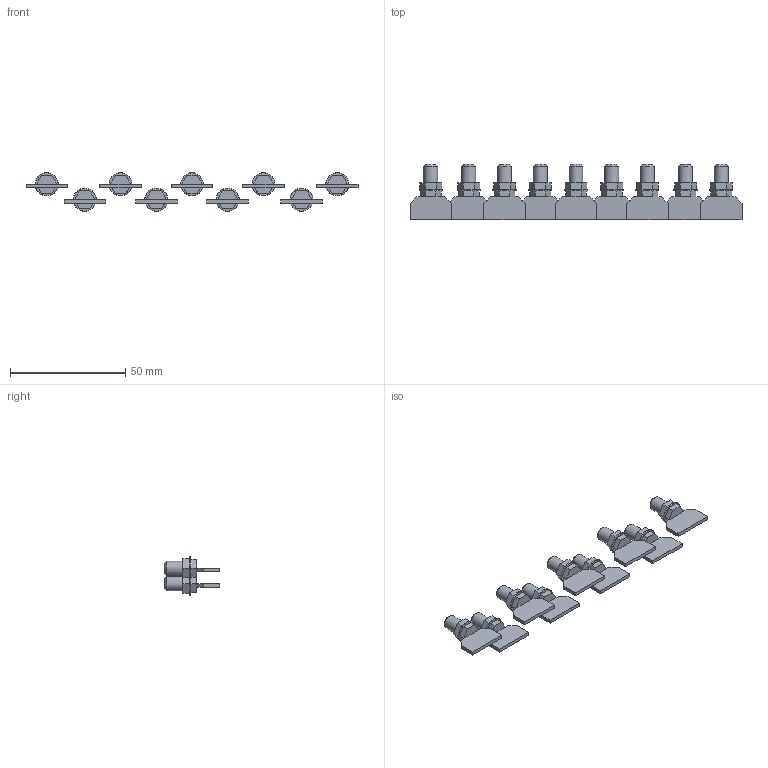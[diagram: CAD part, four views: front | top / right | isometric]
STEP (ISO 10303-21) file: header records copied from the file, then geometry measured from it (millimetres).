
FILE_DESCRIPTION(('HOOPS Exchange Step'),'2;1');
FILE_NAME('/private/var/mobile/Containers/Data/Application/FEB09317-4D42-4244-84D5-4744026CA7E9/tmp/export/temp_export','2021-11-26T22:09:58+01:00',('mobile'),('Shapr3D Limited'),'HOOPS Exchange 2021.1','Shapr3D','Authorized');
FILE_SCHEMA( ('AP203_CONFIGURATION_CONTROLLED_3D_DESIGN_OF_MECHANICAL_PARTS_AND_ASSEMBLIES_MIM_LF') );
Length unit declared in the file: millimetre
Products named in the file (1): /private/var/mobile/Containers/Data/Application/FEB09317-4D42-4244-84D5-4744026CA7E9/tmp/A5B305E3-5764-4238-974A-9D82F71B897F.tmp
Bounding box: 144 x 24 x 16.7 mm (x, y, z)
Volume: 7574.5 mm3; surface area: 7772.2 mm2
Topology: 9 solids, 9 shells, 288 faces, 693 edges, 450 vertices
Faces by surface type: plane 243, cone 27, cylinder 18
Full cylindrical faces by diameter (mm): 6 x9, 10 x9
Entity records: 8273 total; most frequent: CARTESIAN_POINT 1432, ORIENTED_EDGE 1386, DIRECTION 1379, EDGE_CURVE 693, VECTOR 585, LINE 585, VERTEX_POINT 450, AXIS2_PLACEMENT_3D 397
